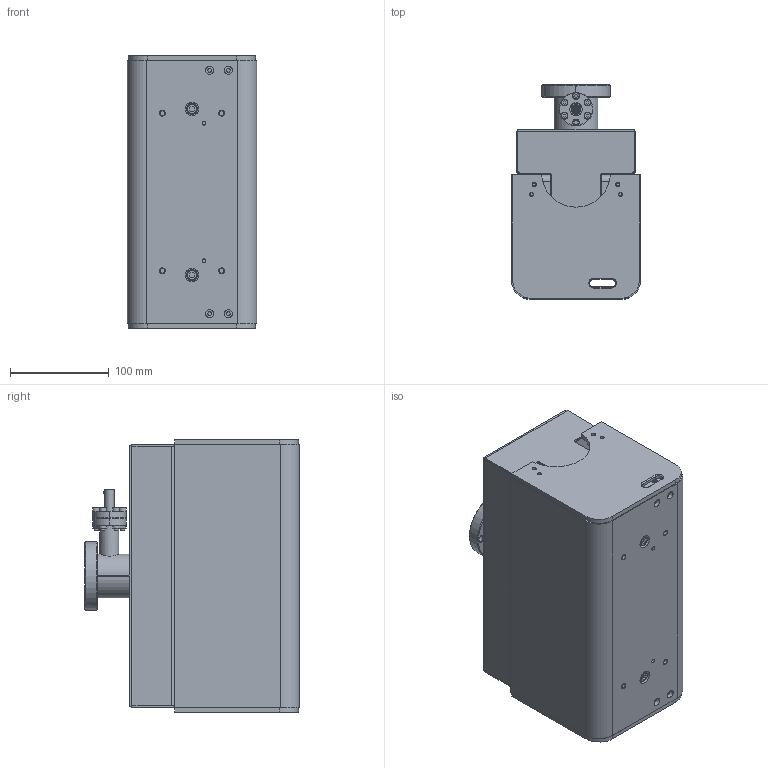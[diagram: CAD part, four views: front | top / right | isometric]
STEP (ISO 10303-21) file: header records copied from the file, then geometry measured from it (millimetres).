
FILE_DESCRIPTION((''),'2;1');
FILE_NAME('75S-XX-2V-XX','2020-12-02T14:45:33',('langebj'),('Gamma Vacuum, LLC'),'CREO PARAMETRIC BY PTC INC, 2020044','CREO PARAMETRIC BY PTC INC, 2020044','');
FILE_SCHEMA(('AUTOMOTIVE_DESIGN { 1 0 10303 214 1 1 1 1 }'));
Products named in the file (1): 75S-XX-2V-XX
Bounding box: 131.2 x 217.51 x 276.65 mm (x, y, z)
Surface area: 647967.3 mm2 (no closed solid volume)
Topology: 0 solids, 0 shells, 1072 faces, 5308 edges, 5274 vertices
Faces by surface type: cylinder 449, plane 409, cone 162, torus 44, bspline 6, sphere 2
Entity records: 78876 total; most frequent: CARTESIAN_POINT 19713, DIRECTION 10160, TRIMMED_CURVE 6804, VECTOR 5597, LINE 5597, DEFINITIONAL_REPRESENTATION 5242, PCURVE 5242, COMPOSITE_CURVE_SEGMENT 5242
